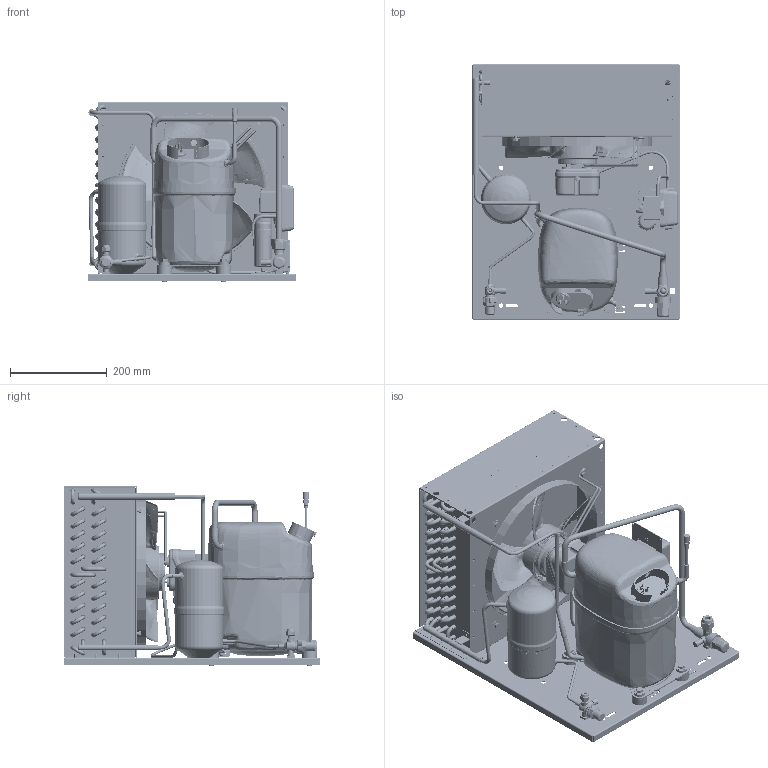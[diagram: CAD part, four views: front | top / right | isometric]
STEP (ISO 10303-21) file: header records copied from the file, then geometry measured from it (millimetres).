
FILE_DESCRIPTION(/* description */ ('Unknown'),/* implementation_level */ '2;1');
FILE_NAME(/* name */ '2298-0042',/* time_stamp */ '2021-12-15T15:55:36+01:00',/* author */ ('Unknown'),/* organization */ ('Unknown'),/* preprocessor_version */ 'ST-DEVELOPER v16.7',/* originating_system */ 'Solid Edge',/* authorisation */ 'Unknown');
FILE_SCHEMA (('AUTOMOTIVE_DESIGN {1 0 10303 214 3 1 1}'));
Products named in the file (81): 2298-0042; 92505125_oa_0; 1440350c70; r50119606; r50119607; r50119601; r50000909; 2990210; r59700398; r50118004; r50115605; 84dm6x8xxxxgabf00; 84dm6x8xxxxgabf00_02; 84dm6x8xxxxgabf00_01; r50000850; 2990361; 6072_24M12; 6062_22M6; 100_200vs00; 84fm8x12xxxteff00; 84DM8X6.9XXESRF00; gs34clx-a-csr; gs34clx-a-csr_107B4000_ASM; gs34clx-a-csr_107B4220; gs34clx-a-csr_107B4820; gs34clx-a-csr_107B4200; gs34clx-a-csr_107B4684; gs34clx-a-csr_107B4000_ZSB_HUS_SKEL; gs34clx-a-csr_107B5001_ASM; gs34clx-a-csr_107B5333; gs34clx-a-csr_107B5451; gs34clx-a-csr_107B5505; gs34clx-a-csr_107B4681; gs34clx-a-csr_STROMDURCHFUEHRUNG_117-3618_; gs34clx-a-csr_107B5600_UMHUELLUNG_AF1; gs34clx-a-csr_107B9101_EL_DECKEL; nj2192gk-a-csr_GOMMINO_2; sc18cl-a-csr_Large_el; sc18cl-a-csr_TRM_SRF; sc18cl-a-csr_TRM_SRF_0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
Assembly tree (169 placements, depth 4):
  2298-0042
    92505125_oa_0
    1440350c70
      r50119606
      r50119607
      r50119601
      r50000909
      2990210  x24
      r59700398  x30
      r50118004
      r50115605
      84dm6x8xxxxgabf00  x4
        84dm6x8xxxxgabf00_02
        84dm6x8xxxxgabf00_01
      r50000850  x2
      2990361  x2
    6072_24M12
    6062_22M6
    100_200vs00
    84fm8x12xxxteff00  x2
    84DM8X6.9XXESRF00
    gs34clx-a-csr
      gs34clx-a-csr_107B4000_ASM
        gs34clx-a-csr_107B4220
        gs34clx-a-csr_107B4820
        gs34clx-a-csr_107B4200  x2
        gs34clx-a-csr_107B4684  x2
        gs34clx-a-csr_107B4000_ZSB_HUS_SKEL
      gs34clx-a-csr_107B5001_ASM
        gs34clx-a-csr_107B5333
        gs34clx-a-csr_107B5451
        gs34clx-a-csr_107B5505
        gs34clx-a-csr_107B4681
        gs34clx-a-csr_STROMDURCHFUEHRUNG_117-3618_
        gs34clx-a-csr_107B5600_UMHUELLUNG_AF1
      gs34clx-a-csr_107B9101_EL_DECKEL
      nj2192gk-a-csr_GOMMINO_2  x4
    sc18cl-a-csr_Large_el
      sc18cl-a-csr_TRM_SRF
      sc18cl-a-csr_TRM_SRF_0
      sc18cl-a-csr_TRM_SRF_1
      sc18cl-a-csr_TRM_SRF_2
      sc18cl-a-csr_TRM_SRF_3
      sc18cl-a-csr_TRM_SRF_4
      sc18cl-a-csr_TRM_SRF_5
      sc18cl_a_csr_cavo_01
      sc18cl_a_csr_cavo_02
    84im8xxxxxxtref00  x4
    107b9151  x4
    84RM10X21XXPIAF00  x4
    7030_4m12
    99510255
      8351_2
      99510255_Tubo
      8392_A
    84fm8x35xxxtesf00  x4
    7560_4
    gs34tb-a-csr_cilindro_piede  x4
    7560_2
    8392_A  x2
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Bounding box: 430 x 530 x 372.82 mm (x, y, z)
Volume: 11931904.4 mm3; surface area: 4600977.1 mm2
Topology: 163 solids, 178 shells, 13890 faces, 34754 edges, 22084 vertices
Faces by surface type: plane 6971, bspline 2834, cylinder 2348, torus 944, cone 636, sphere 157
Full cylindrical faces by diameter (mm): 0.5 x1, 1 x3, 1.2 x4, 2.2 x4, 2.35 x3, 2.4 x1, 2.6 x1, 2.644 x1, 2.7 x6, 2.855 x1, 3 x9, 3.19 x12, 3.2 x4, 3.3 x2, 3.5 x5, 3.58 x3, 3.6 x8, 3.7 x5, 3.8 x2, 3.85 x1, 3.9 x2, 4 x30, 4.2 x7, 4.3 x1, 4.4 x4, 4.5 x28, 4.6 x5, 4.66 x4, 4.7 x6, 4.8 x10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
Entity records: 576296 total; most frequent: CARTESIAN_POINT 269405, ORIENTED_EDGE 57294, DIRECTION 43341, EDGE_CURVE 28647, VERTEX_POINT 19013, AXIS2_PLACEMENT_3D 15838, FACE_BOUND 15142, EDGE_LOOP 15141
